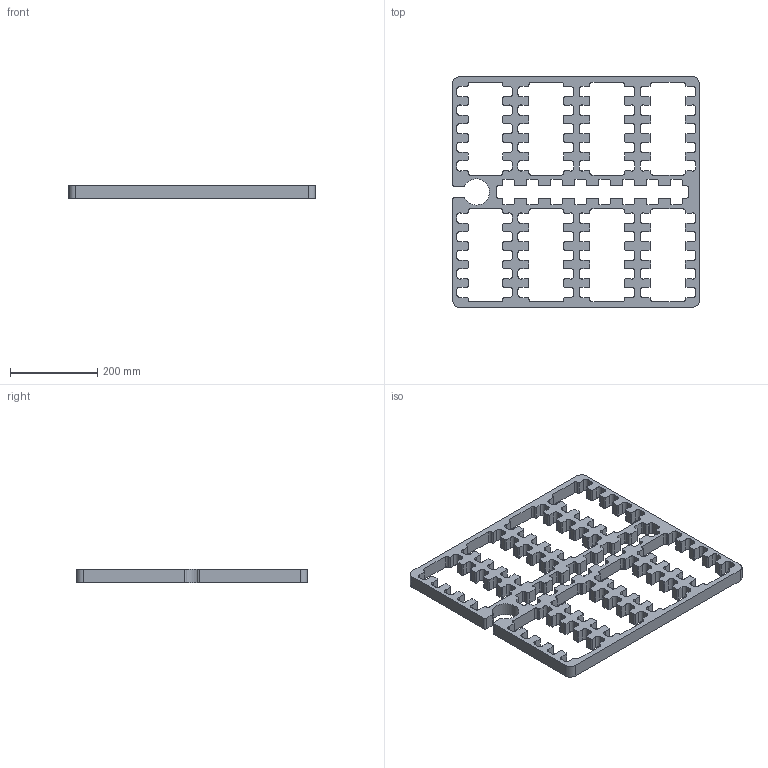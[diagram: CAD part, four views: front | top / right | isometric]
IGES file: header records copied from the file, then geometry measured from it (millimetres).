
Global section: file name: foam_3 v1; native system: unknown; preprocessor: unknown; author: unknown; organization: unknown; date: 20190213.104844; units: millimetre
Bounding box: 565.21 x 528.7 x 30 mm (x, y, z)
Volume: 2919549.4 mm3; surface area: 539493.9 mm2
Topology: 1 solids, 1 shells, 858 faces, 2568 edges, 1712 vertices
Faces by surface type: bspline 858
